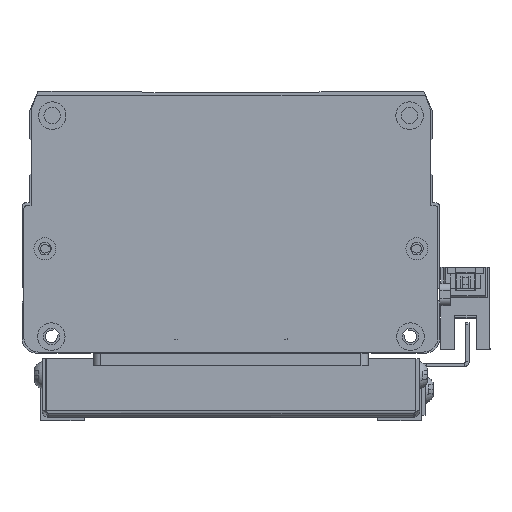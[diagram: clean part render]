
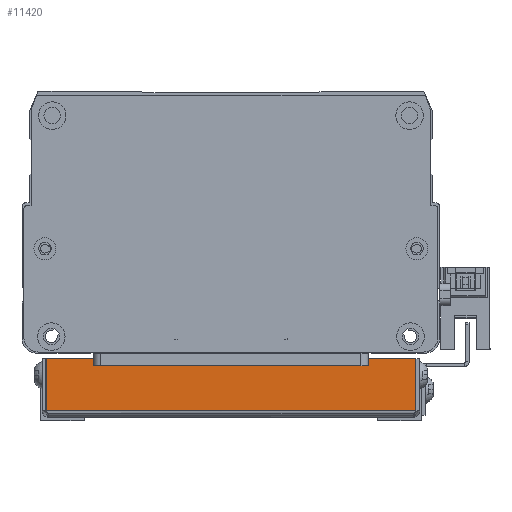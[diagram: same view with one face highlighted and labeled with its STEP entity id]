
A CAD part, front view. The second image highlights one B-rep face of the part: STEP entity #11420.
In plain terms, the highlighted planar face has unit normal (0, -1, 0) as drawn and (0, 0, -1) by its records, which use the part's own axes.
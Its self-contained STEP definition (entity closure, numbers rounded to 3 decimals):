
#173 = CARTESIAN_POINT ( 'NONE',  ( 83.172, 128.497, -9.273 ) ) ;
#2389 = EDGE_CURVE ( 'NONE', #25162, #10103, #13251, .T. ) ;
#3335 = EDGE_CURVE ( 'NONE', #10224, #10609, #23386, .T. ) ;
#3565 = CARTESIAN_POINT ( 'NONE',  ( 184.072, 128.497, -9.273 ) ) ;
#4483 = ORIENTED_EDGE ( 'NONE', *, *, #6133, .F. ) ;
#5303 = FACE_OUTER_BOUND ( 'NONE', #6142, .T. ) ;
#5994 = LINE ( 'NONE', #22497, #8375 ) ;
#6086 = EDGE_CURVE ( 'NONE', #10103, #10609, #17013, .T. ) ;
#6133 = EDGE_CURVE ( 'NONE', #10224, #25162, #5994, .T. ) ;
#6142 = EDGE_LOOP ( 'NONE', ( #4483, #21700, #13727, #23064 ) ) ;
#6317 = VECTOR ( 'NONE', #9072, 1000. ) ;
#8288 = DIRECTION ( 'NONE',  ( 0., -1., 0. ) ) ;
#8375 = VECTOR ( 'NONE', #18324, 1000. ) ;
#9072 = DIRECTION ( 'NONE',  ( 1., 0., 0. ) ) ;
#10065 = CARTESIAN_POINT ( 'NONE',  ( 83.272, 142.76, -9.273 ) ) ;
#10103 = VERTEX_POINT ( 'NONE', #20306 ) ;
#10224 = VERTEX_POINT ( 'NONE', #13062 ) ;
#10609 = VERTEX_POINT ( 'NONE', #3565 ) ;
#11420 = ADVANCED_FACE ( 'NONE', ( #5303 ), #21458, .F. ) ;
#13062 = CARTESIAN_POINT ( 'NONE',  ( 184.072, 142.76, -9.273 ) ) ;
#13251 = LINE ( 'NONE', #10065, #23160 ) ;
#13727 = ORIENTED_EDGE ( 'NONE', *, *, #6086, .F. ) ;
#14314 = DIRECTION ( 'NONE',  ( 0., -1., 0. ) ) ;
#17013 = LINE ( 'NONE', #173, #6317 ) ;
#17063 = DIRECTION ( 'NONE',  ( 0., 0., 1. ) ) ;
#17254 = CARTESIAN_POINT ( 'NONE',  ( 262.181, 144.497, -9.273 ) ) ;
#17424 = CARTESIAN_POINT ( 'NONE',  ( 83.272, 142.76, -9.273 ) ) ;
#18324 = DIRECTION ( 'NONE',  ( -1., 0., 0. ) ) ;
#18957 = DIRECTION ( 'NONE',  ( 0., -1., 0. ) ) ;
#20306 = CARTESIAN_POINT ( 'NONE',  ( 83.272, 128.497, -9.273 ) ) ;
#21458 = PLANE ( 'NONE',  #23362 ) ;
#21700 = ORIENTED_EDGE ( 'NONE', *, *, #3335, .T. ) ;
#22497 = CARTESIAN_POINT ( 'NONE',  ( 262.181, 142.76, -9.273 ) ) ;
#23064 = ORIENTED_EDGE ( 'NONE', *, *, #2389, .F. ) ;
#23160 = VECTOR ( 'NONE', #14314, 1000. ) ;
#23362 = AXIS2_PLACEMENT_3D ( 'NONE', #17254, #17063, #8288 ) ;
#23386 = LINE ( 'NONE', #26109, #24077 ) ;
#24077 = VECTOR ( 'NONE', #18957, 1000. ) ;
#25162 = VERTEX_POINT ( 'NONE', #17424 ) ;
#26109 = CARTESIAN_POINT ( 'NONE',  ( 184.072, 142.76, -9.273 ) ) ;
